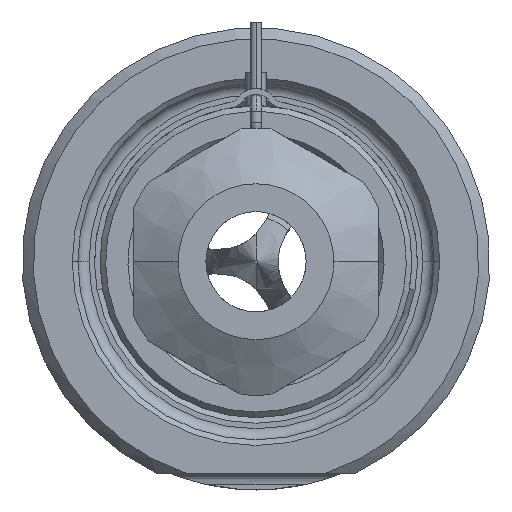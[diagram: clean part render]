
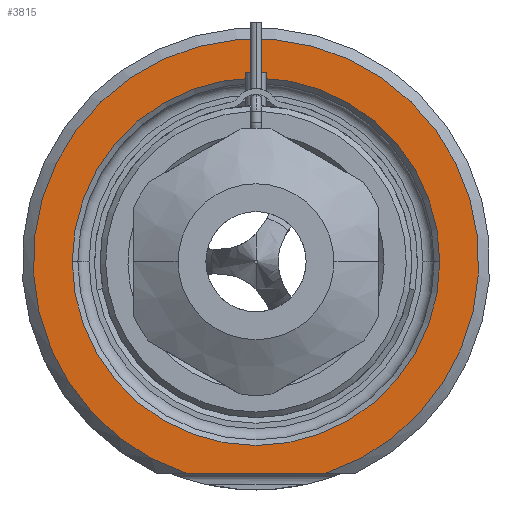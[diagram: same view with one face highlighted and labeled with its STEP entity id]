
A CAD part, front view. The second image highlights one B-rep face of the part: STEP entity #3815.
In plain terms, the highlighted planar face has unit normal (0, -1, 0).
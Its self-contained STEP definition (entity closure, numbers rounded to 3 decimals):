
#1=DIRECTION('',(1.,0.,0.));
#2=VECTOR('',#1,12.49);
#3=CARTESIAN_POINT('',(-6.245,0.,-19.));
#4=LINE('',#3,#2);
#5=CARTESIAN_POINT('',(0.,0.,0.));
#6=DIRECTION('',(0.,1.,0.));
#7=DIRECTION('',(-1.,0.,0.));
#8=AXIS2_PLACEMENT_3D('',#5,#6,#7);
#10=CARTESIAN_POINT('',(0.,0.,0.));
#11=DIRECTION('',(0.,1.,0.));
#12=DIRECTION('',(1.,0.,0.));
#13=AXIS2_PLACEMENT_3D('',#10,#11,#12);
#119=CARTESIAN_POINT('',(0.,0.,0.));
#120=DIRECTION('',(0.,-1.,0.));
#121=DIRECTION('',(0.312,0.,-0.95));
#122=AXIS2_PLACEMENT_3D('',#119,#120,#121);
#3200=CARTESIAN_POINT('',(-16.5,0.,0.));
#3201=CARTESIAN_POINT('',(16.5,0.,0.));
#3202=VERTEX_POINT('',#3200);
#3203=VERTEX_POINT('',#3201);
#3240=CARTESIAN_POINT('',(-6.245,0.,-19.));
#3241=CARTESIAN_POINT('',(6.245,0.,-19.));
#3242=VERTEX_POINT('',#3240);
#3243=VERTEX_POINT('',#3241);
#3798=CARTESIAN_POINT('',(0.,0.,0.));
#3799=DIRECTION('',(0.,-1.,0.));
#3800=DIRECTION('',(1.,0.,0.));
#3801=AXIS2_PLACEMENT_3D('',#3798,#3799,#3800);
#3802=PLANE('',#3801);
#3804=ORIENTED_EDGE('',*,*,#3803,.F.);
#3806=ORIENTED_EDGE('',*,*,#3805,.F.);
#3807=EDGE_LOOP('',(#3804,#3806));
#3808=FACE_OUTER_BOUND('',#3807,.F.);
#3810=ORIENTED_EDGE('',*,*,#3809,.F.);
#3812=ORIENTED_EDGE('',*,*,#3811,.F.);
#3813=EDGE_LOOP('',(#3810,#3812));
#3814=FACE_BOUND('',#3813,.F.);
#3815=ADVANCED_FACE('',(#3808,#3814),#3802,.T.);
#9=CIRCLE('',#8,16.5);
#14=CIRCLE('',#13,16.5);
#123=CIRCLE('',#122,20.);
#3803=EDGE_CURVE('',#3242,#3243,#4,.T.);
#3805=EDGE_CURVE('',#3243,#3242,#123,.T.);
#3809=EDGE_CURVE('',#3202,#3203,#9,.T.);
#3811=EDGE_CURVE('',#3203,#3202,#14,.T.);
